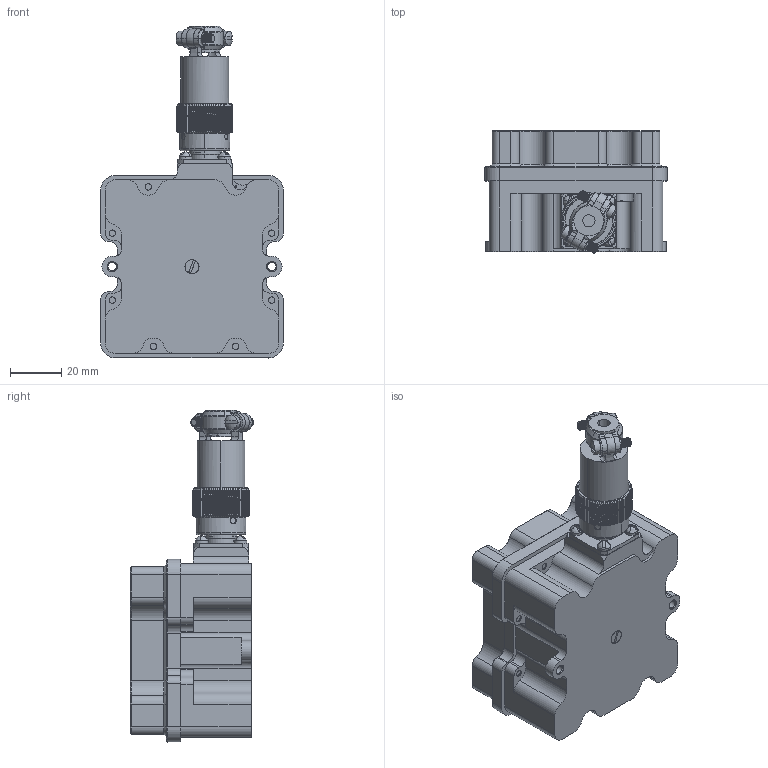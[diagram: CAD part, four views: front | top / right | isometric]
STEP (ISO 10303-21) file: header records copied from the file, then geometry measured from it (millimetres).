
FILE_DESCRIPTION (( 'STEP AP214' ), '1' );
FILE_NAME ('UV01.431329.102.330.00 WWW Central Processing Unit.STEP', '2017-03-06T10:16:55', ( '' ), ( '' ), 'SwSTEP 2.0', 'SolidWorks 2017', '' );
FILE_SCHEMA (( 'AUTOMOTIVE_DESIGN' ));
Length unit declared in the file: millimetre
Products named in the file (1): UV01.431329.102.330.00 WWW Central Processing Unit
Bounding box: 71 x 47.87 x 129.02 mm (x, y, z)
Volume: 204162.4 mm3; surface area: 31970 mm2
Topology: 8 solids, 8 shells, 2063 faces, 5770 edges, 3786 vertices
Faces by surface type: bspline 796, plane 601, cylinder 532, cone 100, torus 30, sphere 4
Entity records: 180537 total; most frequent: CARTESIAN_POINT 115169, ORIENTED_EDGE 11540, DIRECTION 7298, EDGE_CURVE 5770, VERTEX_POINT 3786, LINE 2844, VECTOR 2844, AXIS2_PLACEMENT_3D 2227
